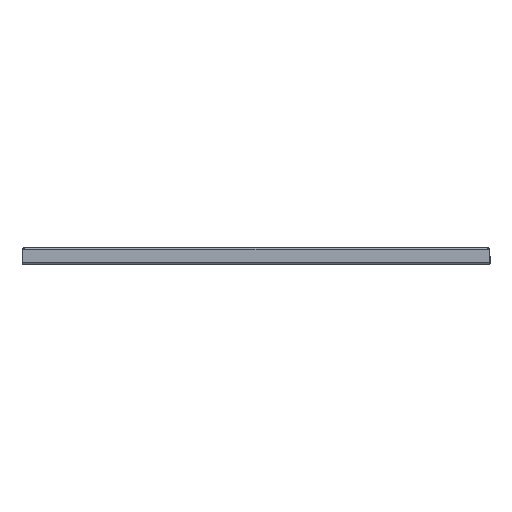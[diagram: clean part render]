
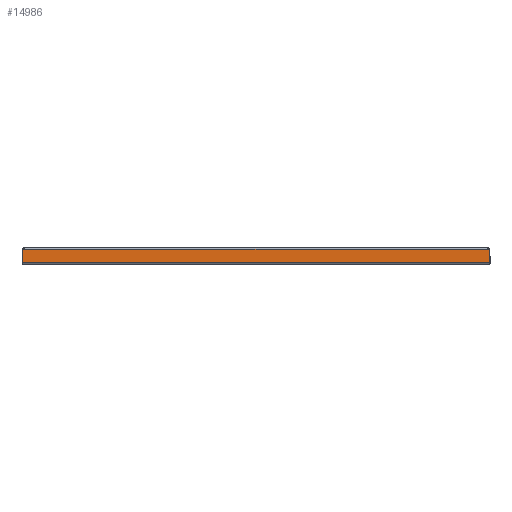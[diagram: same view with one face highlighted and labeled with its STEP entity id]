
A CAD part, front view. The second image highlights one B-rep face of the part: STEP entity #14986.
In plain terms, the highlighted planar face has unit normal (0, -1, 0).
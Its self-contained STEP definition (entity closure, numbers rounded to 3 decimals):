
#1144 = ORIENTED_EDGE ( 'NONE', *, *, #10492, .T. ) ;
#1869 = LINE ( 'NONE', #3286, #4928 ) ;
#2204 = EDGE_CURVE ( 'NONE', #9072, #3805, #15476, .T. ) ;
#2244 = ORIENTED_EDGE ( 'NONE', *, *, #11581, .T. ) ;
#2434 = DIRECTION ( 'NONE',  ( -1., 0., 0. ) ) ;
#2653 = DIRECTION ( 'NONE',  ( 0., 0., 1. ) ) ;
#2822 = FACE_OUTER_BOUND ( 'NONE', #5812, .T. ) ;
#3286 = CARTESIAN_POINT ( 'NONE',  ( 0., 0., -2. ) ) ;
#3530 = ORIENTED_EDGE ( 'NONE', *, *, #14327, .T. ) ;
#3805 = VERTEX_POINT ( 'NONE', #10559 ) ;
#3990 = LINE ( 'NONE', #5729, #7913 ) ;
#4337 = EDGE_CURVE ( 'NONE', #8805, #7930, #1869, .T. ) ;
#4620 = VERTEX_POINT ( 'NONE', #7058 ) ;
#4813 = CIRCLE ( 'NONE', #9607, 2.5 ) ;
#4928 = VECTOR ( 'NONE', #12030, 1000. ) ;
#4970 = CARTESIAN_POINT ( 'NONE',  ( 3.301, 0., -3. ) ) ;
#5729 = CARTESIAN_POINT ( 'NONE',  ( 844., 0., -3.501 ) ) ;
#5745 = CARTESIAN_POINT ( 'NONE',  ( 1.8, 0., -1.001 ) ) ;
#5812 = EDGE_LOOP ( 'NONE', ( #2244, #14180, #1144, #3530, #6657, #7859, #10408, #6220 ) ) ;
#6220 = ORIENTED_EDGE ( 'NONE', *, *, #12867, .T. ) ;
#6447 = VECTOR ( 'NONE', #9149, 1000. ) ;
#6657 = ORIENTED_EDGE ( 'NONE', *, *, #8898, .T. ) ;
#6993 = DIRECTION ( 'NONE',  ( 0., 1., 0. ) ) ;
#7058 = CARTESIAN_POINT ( 'NONE',  ( 844., 0., -3.501 ) ) ;
#7158 = CARTESIAN_POINT ( 'NONE',  ( 842.2, 0., -1.001 ) ) ;
#7859 = ORIENTED_EDGE ( 'NONE', *, *, #12917, .T. ) ;
#7913 = VECTOR ( 'NONE', #10806, 1000. ) ;
#7930 = VERTEX_POINT ( 'NONE', #11142 ) ;
#7986 = AXIS2_PLACEMENT_3D ( 'NONE', #7158, #14740, #14984 ) ;
#8012 = CARTESIAN_POINT ( 'NONE',  ( 0., 0., -27. ) ) ;
#8061 = CARTESIAN_POINT ( 'NONE',  ( 844., 0., -2. ) ) ;
#8147 = CARTESIAN_POINT ( 'NONE',  ( 0., 0., -3.501 ) ) ;
#8163 = CARTESIAN_POINT ( 'NONE',  ( 844., 0., -27. ) ) ;
#8805 = VERTEX_POINT ( 'NONE', #8147 ) ;
#8898 = EDGE_CURVE ( 'NONE', #4620, #12623, #3990, .T. ) ;
#9072 = VERTEX_POINT ( 'NONE', #4970 ) ;
#9089 = PLANE ( 'NONE',  #10300 ) ;
#9149 = DIRECTION ( 'NONE',  ( 1., 0., 0. ) ) ;
#9228 = DIRECTION ( 'NONE',  ( 0., 0., 1. ) ) ;
#9353 = LINE ( 'NONE', #8012, #14352 ) ;
#9607 = AXIS2_PLACEMENT_3D ( 'NONE', #5745, #6993, #10820 ) ;
#9841 = VERTEX_POINT ( 'NONE', #13542 ) ;
#10089 = VECTOR ( 'NONE', #2434, 1000. ) ;
#10300 = AXIS2_PLACEMENT_3D ( 'NONE', #14081, #14250, #2653 ) ;
#10408 = ORIENTED_EDGE ( 'NONE', *, *, #2204, .F. ) ;
#10492 = EDGE_CURVE ( 'NONE', #7930, #10996, #9353, .T. ) ;
#10559 = CARTESIAN_POINT ( 'NONE',  ( 840.699, 0., -3. ) ) ;
#10806 = DIRECTION ( 'NONE',  ( -1., 0., 0. ) ) ;
#10820 = DIRECTION ( 'NONE',  ( -1., 0., 0. ) ) ;
#10996 = VERTEX_POINT ( 'NONE', #8163 ) ;
#11142 = CARTESIAN_POINT ( 'NONE',  ( 0., 0., -27. ) ) ;
#11181 = CIRCLE ( 'NONE', #7986, 2.5 ) ;
#11394 = CARTESIAN_POINT ( 'NONE',  ( 842.2, 0., -3.501 ) ) ;
#11581 = EDGE_CURVE ( 'NONE', #9841, #8805, #13784, .T. ) ;
#11796 = LINE ( 'NONE', #8061, #15525 ) ;
#12030 = DIRECTION ( 'NONE',  ( 0., 0., -1. ) ) ;
#12623 = VERTEX_POINT ( 'NONE', #11394 ) ;
#12867 = EDGE_CURVE ( 'NONE', #9072, #9841, #4813, .T. ) ;
#12917 = EDGE_CURVE ( 'NONE', #12623, #3805, #11181, .T. ) ;
#13542 = CARTESIAN_POINT ( 'NONE',  ( 1.8, 0., -3.501 ) ) ;
#13784 = LINE ( 'NONE', #16358, #10089 ) ;
#14060 = CARTESIAN_POINT ( 'NONE',  ( 844., 0., -3. ) ) ;
#14081 = CARTESIAN_POINT ( 'NONE',  ( 844., 0., -2. ) ) ;
#14180 = ORIENTED_EDGE ( 'NONE', *, *, #4337, .T. ) ;
#14250 = DIRECTION ( 'NONE',  ( 0., 1., 0. ) ) ;
#14327 = EDGE_CURVE ( 'NONE', #10996, #4620, #11796, .T. ) ;
#14352 = VECTOR ( 'NONE', #15423, 1000. ) ;
#14740 = DIRECTION ( 'NONE',  ( 0., 1., 0. ) ) ;
#14984 = DIRECTION ( 'NONE',  ( -1., 0., 0. ) ) ;
#14986 = ADVANCED_FACE ( 'NONE', ( #2822 ), #9089, .F. ) ;
#15423 = DIRECTION ( 'NONE',  ( 1., 0., 0. ) ) ;
#15476 = LINE ( 'NONE', #14060, #6447 ) ;
#15525 = VECTOR ( 'NONE', #9228, 1000. ) ;
#16358 = CARTESIAN_POINT ( 'NONE',  ( 1.8, 0., -3.501 ) ) ;
